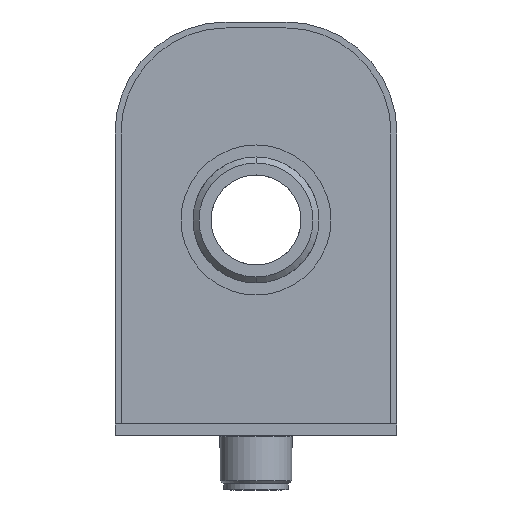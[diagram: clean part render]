
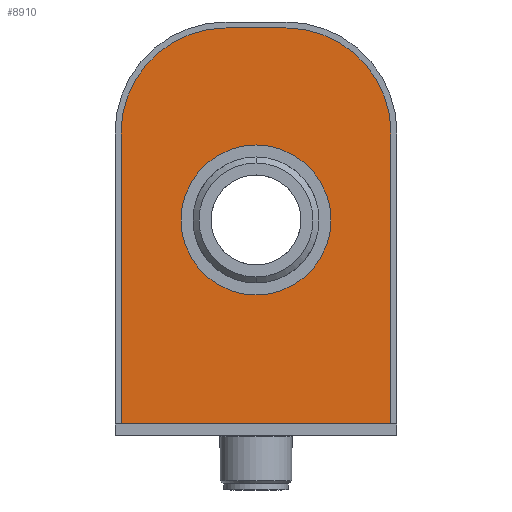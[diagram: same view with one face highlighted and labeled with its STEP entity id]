
A CAD part, left-side view. The second image highlights one B-rep face of the part: STEP entity #8910.
In plain terms, the highlighted planar face has unit normal (-1, 0, 0) as drawn and (0, 0, -1) by its records, which use the part's own axes.
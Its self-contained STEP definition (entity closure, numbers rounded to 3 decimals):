
#102 = VERTEX_POINT ( 'NONE', #10294 ) ;
#103 = VERTEX_POINT ( 'NONE', #9097 ) ;
#182 = EDGE_CURVE ( 'NONE', #9323, #1895, #8775, .T. ) ;
#627 = ORIENTED_EDGE ( 'NONE', *, *, #7641, .F. ) ;
#639 = CIRCLE ( 'NONE', #2704, 17.5 ) ;
#772 = DIRECTION ( 'NONE',  ( -1., 0., 0. ) ) ;
#994 = CARTESIAN_POINT ( 'NONE',  ( 10., 0., 0. ) ) ;
#1014 = VECTOR ( 'NONE', #772, 1000. ) ;
#1037 = VERTEX_POINT ( 'NONE', #15249 ) ;
#1226 = ORIENTED_EDGE ( 'NONE', *, *, #182, .F. ) ;
#1724 = DIRECTION ( 'NONE',  ( 0., 0., 1. ) ) ;
#1895 = VERTEX_POINT ( 'NONE', #994 ) ;
#1966 = LINE ( 'NONE', #11729, #4783 ) ;
#2199 = CARTESIAN_POINT ( 'NONE',  ( 27.5, 66., 0. ) ) ;
#2231 = CARTESIAN_POINT ( 'NONE',  ( 5., 32., 0. ) ) ;
#2465 = CARTESIAN_POINT ( 'NONE',  ( 16.85, 32., 0. ) ) ;
#2482 = EDGE_CURVE ( 'NONE', #10218, #102, #11441, .T. ) ;
#2704 = AXIS2_PLACEMENT_3D ( 'NONE', #13276, #6217, #14460 ) ;
#2728 = AXIS2_PLACEMENT_3D ( 'NONE', #8730, #1724, #9988 ) ;
#3429 = DIRECTION ( 'NONE',  ( 1., 0., 0. ) ) ;
#3499 = DIRECTION ( 'NONE',  ( 0., 1., 0. ) ) ;
#3870 = ORIENTED_EDGE ( 'NONE', *, *, #2482, .T. ) ;
#3891 = FACE_BOUND ( 'NONE', #8202, .T. ) ;
#4113 = CARTESIAN_POINT ( 'NONE',  ( 5., 32., 0. ) ) ;
#4264 = FACE_OUTER_BOUND ( 'NONE', #11105, .T. ) ;
#4380 = CIRCLE ( 'NONE', #14270, 17.5 ) ;
#4783 = VECTOR ( 'NONE', #3499, 1000. ) ;
#5103 = ORIENTED_EDGE ( 'NONE', *, *, #11217, .F. ) ;
#5142 = CIRCLE ( 'NONE', #7216, 11.85 ) ;
#5313 = DIRECTION ( 'NONE',  ( 1., 0., 0. ) ) ;
#5408 = EDGE_CURVE ( 'NONE', #10277, #9323, #4380, .T. ) ;
#6217 = DIRECTION ( 'NONE',  ( 0., 0., 1. ) ) ;
#6322 = DIRECTION ( 'NONE',  ( 0., 0., 1. ) ) ;
#7004 = ORIENTED_EDGE ( 'NONE', *, *, #11635, .T. ) ;
#7216 = AXIS2_PLACEMENT_3D ( 'NONE', #4113, #12340, #5313 ) ;
#7641 = EDGE_CURVE ( 'NONE', #1037, #10277, #8880, .T. ) ;
#8077 = DIRECTION ( 'NONE',  ( 1., 0., 0. ) ) ;
#8202 = EDGE_LOOP ( 'NONE', ( #7004, #3870 ) ) ;
#8730 = CARTESIAN_POINT ( 'NONE',  ( 0., 17.5, 0. ) ) ;
#8775 = LINE ( 'NONE', #10445, #15089 ) ;
#8790 = PLANE ( 'NONE',  #2728 ) ;
#8880 = LINE ( 'NONE', #13343, #14818 ) ;
#8910 = ADVANCED_FACE ( 'NONE', ( #4264, #3891 ), #8790, .F. ) ;
#9097 = CARTESIAN_POINT ( 'NONE',  ( 27.5, 17.5, 0. ) ) ;
#9167 = VERTEX_POINT ( 'NONE', #2199 ) ;
#9323 = VERTEX_POINT ( 'NONE', #14231 ) ;
#9559 = ORIENTED_EDGE ( 'NONE', *, *, #15065, .F. ) ;
#9988 = DIRECTION ( 'NONE',  ( 1., 0., 0. ) ) ;
#10218 = VERTEX_POINT ( 'NONE', #2465 ) ;
#10277 = VERTEX_POINT ( 'NONE', #12010 ) ;
#10294 = CARTESIAN_POINT ( 'NONE',  ( -6.85, 32., 0. ) ) ;
#10445 = CARTESIAN_POINT ( 'NONE',  ( 0., 0., 0. ) ) ;
#10490 = DIRECTION ( 'NONE',  ( 0., 0., 1. ) ) ;
#10973 = ORIENTED_EDGE ( 'NONE', *, *, #14310, .F. ) ;
#11105 = EDGE_LOOP ( 'NONE', ( #11685, #627, #5103, #10973, #9559, #1226 ) ) ;
#11217 = EDGE_CURVE ( 'NONE', #9167, #1037, #13593, .T. ) ;
#11441 = CIRCLE ( 'NONE', #11767, 11.85 ) ;
#11635 = EDGE_CURVE ( 'NONE', #102, #10218, #5142, .T. ) ;
#11685 = ORIENTED_EDGE ( 'NONE', *, *, #5408, .F. ) ;
#11729 = CARTESIAN_POINT ( 'NONE',  ( 27.5, 17.5, 0. ) ) ;
#11767 = AXIS2_PLACEMENT_3D ( 'NONE', #2231, #10490, #3429 ) ;
#12010 = CARTESIAN_POINT ( 'NONE',  ( -17.5, 17.5, 0. ) ) ;
#12135 = DIRECTION ( 'NONE',  ( 0., -1., 0. ) ) ;
#12340 = DIRECTION ( 'NONE',  ( 0., 0., 1. ) ) ;
#13276 = CARTESIAN_POINT ( 'NONE',  ( 10., 17.5, 0. ) ) ;
#13343 = CARTESIAN_POINT ( 'NONE',  ( -17.5, 66., 0. ) ) ;
#13367 = CARTESIAN_POINT ( 'NONE',  ( 0., 17.5, 0. ) ) ;
#13593 = LINE ( 'NONE', #13748, #1014 ) ;
#13748 = CARTESIAN_POINT ( 'NONE',  ( 27.5, 66., 0. ) ) ;
#14231 = CARTESIAN_POINT ( 'NONE',  ( 0., 0., 0. ) ) ;
#14270 = AXIS2_PLACEMENT_3D ( 'NONE', #13367, #6322, #14571 ) ;
#14310 = EDGE_CURVE ( 'NONE', #103, #9167, #1966, .T. ) ;
#14460 = DIRECTION ( 'NONE',  ( 1., 0., 0. ) ) ;
#14571 = DIRECTION ( 'NONE',  ( 1., 0., 0. ) ) ;
#14818 = VECTOR ( 'NONE', #12135, 1000. ) ;
#15065 = EDGE_CURVE ( 'NONE', #1895, #103, #639, .T. ) ;
#15089 = VECTOR ( 'NONE', #8077, 1000. ) ;
#15249 = CARTESIAN_POINT ( 'NONE',  ( -17.5, 66., 0. ) ) ;
